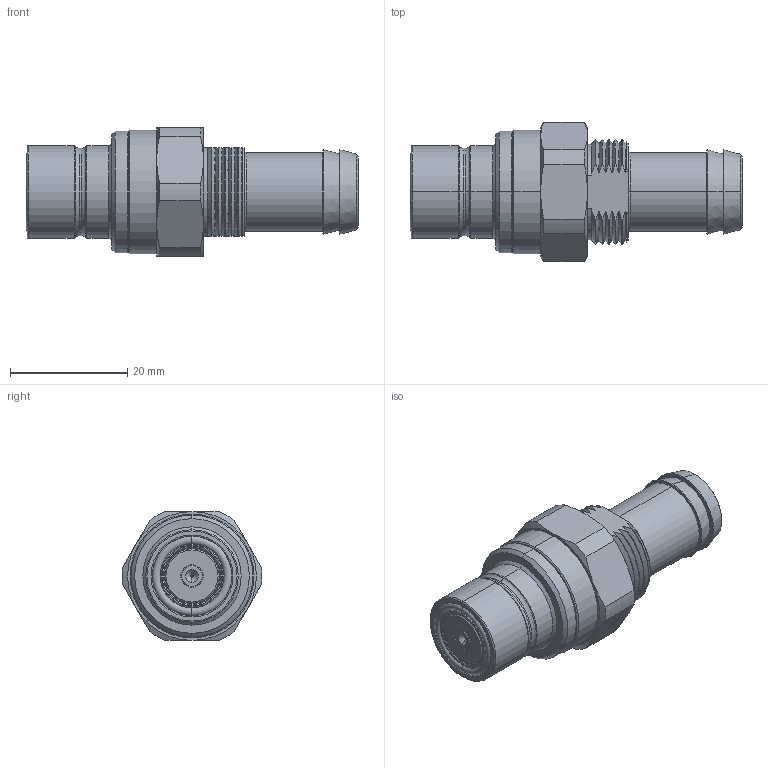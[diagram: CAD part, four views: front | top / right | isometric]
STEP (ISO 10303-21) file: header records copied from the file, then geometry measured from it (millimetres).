
FILE_DESCRIPTION (( 'STEP AP203' ), '1' );
FILE_NAME ('QD3-MT13-P.STEP', '2025-01-02T02:07:41', ( 'aksong' ), ( '' ), 'SwSTEP 2.0', 'SolidWorks 2012', '' );
FILE_SCHEMA (( 'CONFIG_CONTROL_DESIGN' ));
Length unit declared in the file: millimetre
Products named in the file (3): 13mm panel¿ë barb, male ³ëÁñ; male body; QD3-MT13-P
Assembly tree (2 placements, depth 2):
  QD3-MT13-P
    male body
    13mm panel¿ë barb, male ³ëÁñ
Bounding box: 56.72 x 23.88 x 22 mm (x, y, z)
Volume: 9923.8 mm3; surface area: 5762.6 mm2
Topology: 2 solids, 2 shells, 165 faces, 392 edges, 244 vertices
Faces by surface type: cone 62, cylinder 48, torus 28, plane 27
Entity records: 5211 total; most frequent: CARTESIAN_POINT 1058, DIRECTION 864, ORIENTED_EDGE 784, EDGE_CURVE 392, AXIS2_PLACEMENT_3D 374, VERTEX_POINT 244, CIRCLE 204, EDGE_LOOP 180
